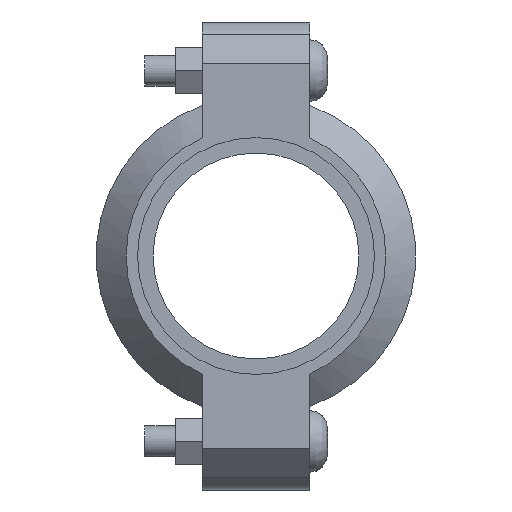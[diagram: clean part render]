
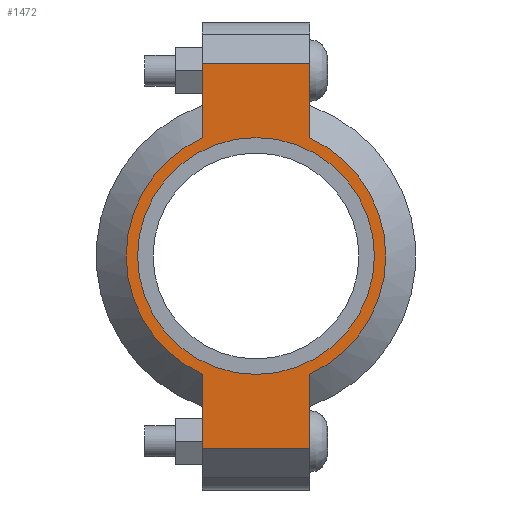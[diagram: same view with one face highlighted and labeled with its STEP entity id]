
A CAD part, left-side view. The second image highlights one B-rep face of the part: STEP entity #1472.
In plain terms, the highlighted planar face has unit normal (-1, 0, 0) as drawn and (0, 0, 1) by its records, which use the part's own axes.
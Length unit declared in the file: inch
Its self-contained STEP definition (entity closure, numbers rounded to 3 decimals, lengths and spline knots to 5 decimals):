
#152=LINE('',#2535,#243);
#160=LINE('',#2571,#251);
#167=LINE('',#2592,#258);
#176=LINE('',#2624,#267);
#177=LINE('',#2628,#268);
#178=LINE('',#2630,#269);
#243=VECTOR('',#2049,0.3937);
#251=VECTOR('',#2065,0.3937);
#258=VECTOR('',#2084,0.3937);
#267=VECTOR('',#2109,0.3937);
#268=VECTOR('',#2114,0.3937);
#269=VECTOR('',#2115,0.3937);
#321=FACE_BOUND('',#481,.T.);
#385=FACE_OUTER_BOUND('',#480,.T.);
#480=EDGE_LOOP('',(#1207,#1208,#1209,#1210,#1211,#1212,#1213,#1214));
#481=EDGE_LOOP('',(#1215));
#578=CIRCLE('',#1715,1.575);
#579=CIRCLE('',#1716,1.575);
#580=CIRCLE('',#1717,1.4375);
#683=VERTEX_POINT('',#2532);
#684=VERTEX_POINT('',#2534);
#695=VERTEX_POINT('',#2566);
#696=VERTEX_POINT('',#2570);
#703=VERTEX_POINT('',#2589);
#704=VERTEX_POINT('',#2591);
#714=VERTEX_POINT('',#2627);
#715=VERTEX_POINT('',#2629);
#716=VERTEX_POINT('',#2632);
#847=EDGE_CURVE('',#684,#683,#152,.T.);
#861=EDGE_CURVE('',#696,#695,#160,.T.);
#871=EDGE_CURVE('',#704,#703,#167,.T.);
#886=EDGE_CURVE('',#696,#683,#176,.T.);
#887=EDGE_CURVE('',#695,#704,#578,.T.);
#888=EDGE_CURVE('',#714,#703,#177,.T.);
#889=EDGE_CURVE('',#714,#715,#178,.T.);
#890=EDGE_CURVE('',#715,#684,#579,.T.);
#891=EDGE_CURVE('',#716,#716,#580,.T.);
#1207=ORIENTED_EDGE('',*,*,#886,.F.);
#1208=ORIENTED_EDGE('',*,*,#861,.T.);
#1209=ORIENTED_EDGE('',*,*,#887,.T.);
#1210=ORIENTED_EDGE('',*,*,#871,.T.);
#1211=ORIENTED_EDGE('',*,*,#888,.F.);
#1212=ORIENTED_EDGE('',*,*,#889,.T.);
#1213=ORIENTED_EDGE('',*,*,#890,.T.);
#1214=ORIENTED_EDGE('',*,*,#847,.T.);
#1215=ORIENTED_EDGE('',*,*,#891,.T.);
#1326=PLANE('',#1714);
#1472=ADVANCED_FACE('',(#385,#321),#1326,.T.);
#1714=AXIS2_PLACEMENT_3D('',#2625,#2110,#2111);
#1715=AXIS2_PLACEMENT_3D('',#2626,#2112,#2113);
#1716=AXIS2_PLACEMENT_3D('',#2631,#2116,#2117);
#1717=AXIS2_PLACEMENT_3D('',#2633,#2118,#2119);
#2049=DIRECTION('',(-1.,0.,0.));
#2065=DIRECTION('',(1.,0.,0.));
#2084=DIRECTION('',(1.,0.,0.));
#2109=DIRECTION('',(0.,1.,0.));
#2110=DIRECTION('center_axis',(0.,0.,1.));
#2111=DIRECTION('ref_axis',(1.,0.,0.));
#2112=DIRECTION('center_axis',(0.,0.,1.));
#2113=DIRECTION('ref_axis',(-1.,0.,0.));
#2114=DIRECTION('',(0.,-1.,0.));
#2115=DIRECTION('',(-1.,0.,0.));
#2116=DIRECTION('center_axis',(0.,0.,1.));
#2117=DIRECTION('ref_axis',(-1.,0.,0.));
#2118=DIRECTION('center_axis',(0.,0.,-1.));
#2119=DIRECTION('ref_axis',(-1.,0.,0.));
#2532=CARTESIAN_POINT('',(-2.34,0.65,0.94));
#2534=CARTESIAN_POINT('',(-1.43462,0.65,0.94));
#2535=CARTESIAN_POINT('',(-2.84,0.65,0.94));
#2566=CARTESIAN_POINT('',(-1.43462,-0.65,0.94));
#2570=CARTESIAN_POINT('',(-2.34,-0.65,0.94));
#2571=CARTESIAN_POINT('',(2.84,-0.65,0.94));
#2589=CARTESIAN_POINT('',(2.34,-0.65,0.94));
#2591=CARTESIAN_POINT('',(1.43462,-0.65,0.94));
#2592=CARTESIAN_POINT('',(2.84,-0.65,0.94));
#2624=CARTESIAN_POINT('',(-2.34,0.325,0.94));
#2625=CARTESIAN_POINT('Origin',(0.,0.,
0.94));
#2626=CARTESIAN_POINT('Origin',(0.,0.,0.94));
#2627=CARTESIAN_POINT('',(2.34,0.65,0.94));
#2628=CARTESIAN_POINT('',(2.34,-0.325,0.94));
#2629=CARTESIAN_POINT('',(1.43462,0.65,0.94));
#2630=CARTESIAN_POINT('',(-2.84,0.65,0.94));
#2631=CARTESIAN_POINT('Origin',(0.,0.,0.94));
#2632=CARTESIAN_POINT('',(1.4375,0.,0.94));
#2633=CARTESIAN_POINT('Origin',(0.,0.,0.94));
